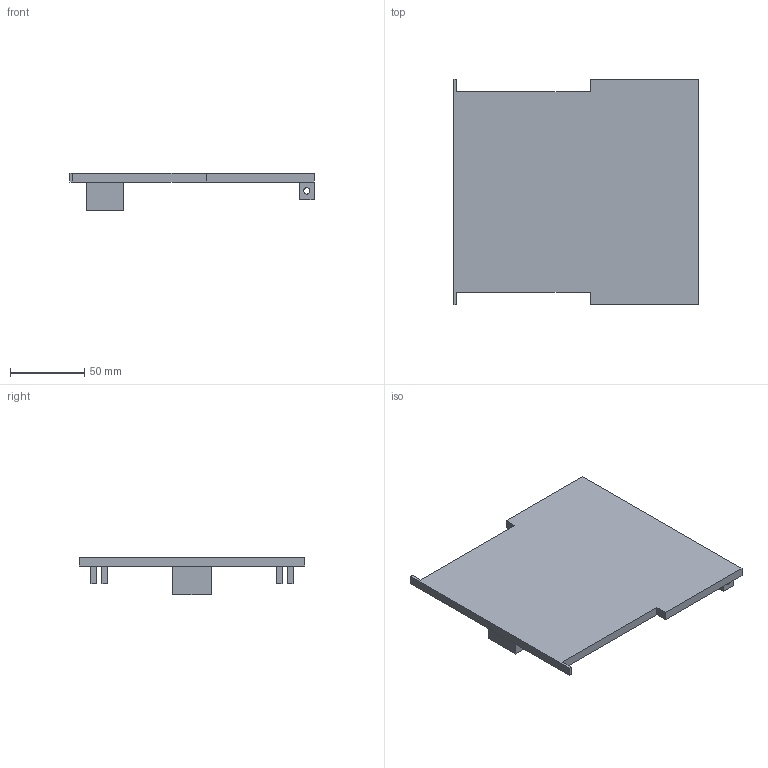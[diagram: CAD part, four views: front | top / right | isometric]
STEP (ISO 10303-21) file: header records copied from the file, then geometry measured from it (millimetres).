
FILE_DESCRIPTION(('Open CASCADE Model'),'2;1');
FILE_NAME('SCZ-PLAT','2026-11-15T22:39:11',('Author'),('Open CASCADE'), 'Open CASCADE STEP processor 8.0','build123d','Unknown');
FILE_SCHEMA(('AUTOMOTIVE_DESIGN { 1 0 10303 214 1 1 1 1 }'));
Length unit declared in the file: millimetre
Products named in the file (1): SCZ-PLAT
Bounding box: 165 x 152 x 25.5 mm (x, y, z)
Volume: 155984.7 mm3; surface area: 54641.1 mm2
Topology: 1 solids, 1 shells, 39 faces, 108 edges, 72 vertices
Faces by surface type: plane 35, cylinder 4
Full cylindrical faces by diameter (mm): 4.3 x4
Entity records: 2672 total; most frequent: CARTESIAN_POINT 496, DIRECTION 392, LINE 296, VECTOR 296, ORIENTED_EDGE 216, PCURVE 216, DEFINITIONAL_REPRESENTATION 216, EDGE_CURVE 108
